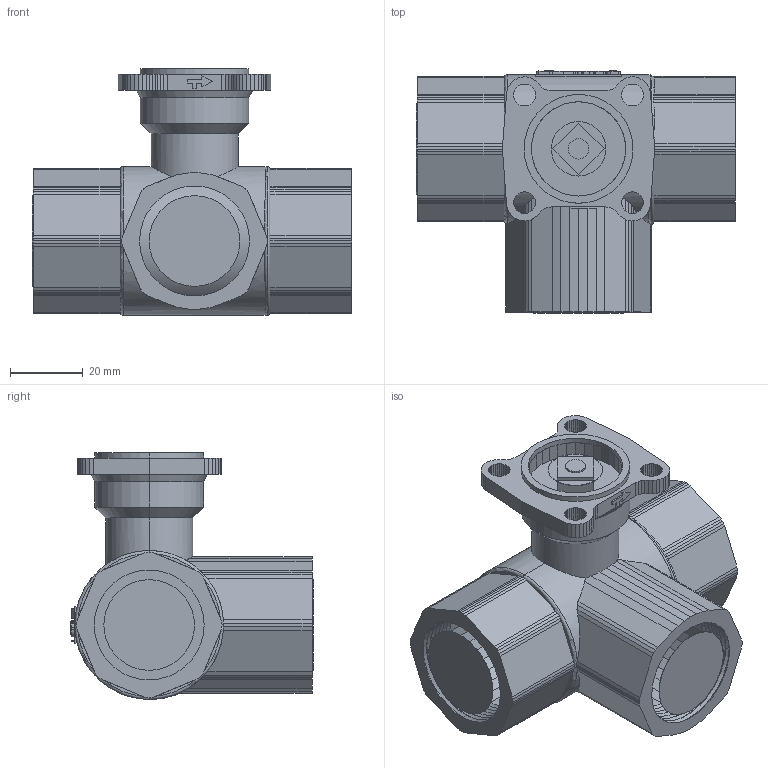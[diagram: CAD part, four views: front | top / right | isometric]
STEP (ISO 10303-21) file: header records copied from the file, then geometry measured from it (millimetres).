
FILE_DESCRIPTION(('no description'),'unknown implementation level');
FILE_NAME('Belimo_R3025-BL2_3D.stp',' ',('pit-cup GmbH'),('CADClick - KiM GmbH - www.kimweb.de'),'unknown preprocess','ACIS','unknown authorization');
FILE_SCHEMA(('automotive_design'));
Length unit declared in the file: millimetre
Products named in the file (4): 1; 2; 3; 4
Bounding box: 88 x 66.8 x 68 mm (x, y, z)
Volume: 101237 mm3; surface area: 34470.8 mm2
Topology: 4 solids, 4 shells, 777 faces, 2106 edges, 1368 vertices
Faces by surface type: plane 610, cone 88, cylinder 72, torus 7
Entity records: 48343 total; most frequent: CARTESIAN_POINT 4916, STYLED_ITEM 4255, PRESENTATION_STYLE_ASSIGNMENT 4255, COLOUR_RGB 4255, ORIENTED_EDGE 4212, DIRECTION 3944, EDGE_CURVE 2106, CURVE_STYLE 2106
